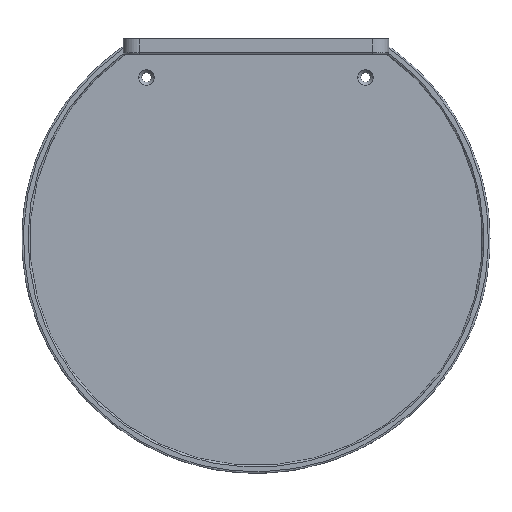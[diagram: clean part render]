
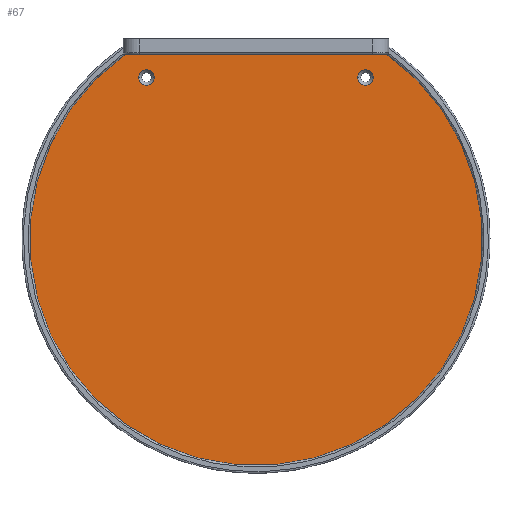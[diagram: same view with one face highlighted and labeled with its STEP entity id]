
A CAD part, top view. The second image highlights one B-rep face of the part: STEP entity #67.
In plain terms, the highlighted planar face has unit normal (0, 0, 1).
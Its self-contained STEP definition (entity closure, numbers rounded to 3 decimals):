
#29=FACE_BOUND('',#166,.T.);
#30=FACE_BOUND('',#167,.T.);
#67=ADVANCED_FACE('',(#112,#29,#30),#776,.T.);
#112=FACE_OUTER_BOUND('',#165,.T.);
#165=EDGE_LOOP('',(#360,#361));
#166=EDGE_LOOP('',(#362,#363));
#167=EDGE_LOOP('',(#364,#365));
#360=ORIENTED_EDGE('',*,*,#485,.T.);
#361=ORIENTED_EDGE('',*,*,#488,.T.);
#362=ORIENTED_EDGE('',*,*,#503,.F.);
#363=ORIENTED_EDGE('',*,*,#493,.F.);
#364=ORIENTED_EDGE('',*,*,#495,.T.);
#365=ORIENTED_EDGE('',*,*,#505,.T.);
#485=EDGE_CURVE('',#719,#718,#560,.T.);
#488=EDGE_CURVE('',#718,#719,#659,.T.);
#493=EDGE_CURVE('',#722,#728,#563,.T.);
#495=EDGE_CURVE('',#724,#730,#564,.T.);
#503=EDGE_CURVE('',#728,#722,#569,.T.);
#505=EDGE_CURVE('',#730,#724,#570,.T.);
#560=TRIMMED_CURVE($,#600,(#1815),(#1816),.T.,.CARTESIAN.);
#563=TRIMMED_CURVE($,#603,(#1836),(#1837),.T.,.CARTESIAN.);
#564=TRIMMED_CURVE($,#604,(#1843),(#1844),.T.,.CARTESIAN.);
#569=TRIMMED_CURVE($,#609,(#1866),(#1867),.T.,.CARTESIAN.);
#570=TRIMMED_CURVE($,#610,(#1873),(#1874),.T.,.CARTESIAN.);
#600=CIRCLE('',#923,151.049);
#603=CIRCLE('',#926,5.);
#604=CIRCLE('',#927,5.);
#609=CIRCLE('',#932,5.);
#610=CIRCLE('',#933,5.);
#659=B_SPLINE_CURVE_WITH_KNOTS('',1,(#1821,#1822),.UNSPECIFIED.,.F.,.F.,
(2,2),(0.,192.873),.UNSPECIFIED.);
#718=VERTEX_POINT('',#1795);
#719=VERTEX_POINT('',#1796);
#722=VERTEX_POINT('',#1799);
#724=VERTEX_POINT('',#1801);
#728=VERTEX_POINT('',#1805);
#730=VERTEX_POINT('',#1807);
#776=PLANE('',#917);
#917=AXIS2_PLACEMENT_3D('',#1708,#1018,$);
#923=AXIS2_PLACEMENT_3D($,#1814,#1025,#1026);
#926=AXIS2_PLACEMENT_3D($,#1835,#1031,#1032);
#927=AXIS2_PLACEMENT_3D($,#1842,#1033,#1034);
#932=AXIS2_PLACEMENT_3D($,#1865,#1043,#1044);
#933=AXIS2_PLACEMENT_3D($,#1872,#1045,#1046);
#1018=DIRECTION('',(0.,0.,1.));
#1025=DIRECTION('',(0.,0.,1.));
#1026=DIRECTION('',(-0.567,0.824,0.));
#1031=DIRECTION('',(0.,0.,1.));
#1032=DIRECTION('',(-1.,0.,0.));
#1033=DIRECTION('',(0.,0.,-1.));
#1034=DIRECTION('',(1.,0.,0.));
#1043=DIRECTION('',(0.,0.,1.));
#1044=DIRECTION('',(1.,0.,0.));
#1045=DIRECTION('',(0.,0.,-1.));
#1046=DIRECTION('',(-1.,0.,0.));
#1708=CARTESIAN_POINT('',(2511.066,-32.349,-145.074));
#1795=CARTESIAN_POINT('',(2407.941,-66.779,-145.074));
#1796=CARTESIAN_POINT('',(2236.569,-66.779,-145.074));
#1799=CARTESIAN_POINT('',(2387.941,-86.779,-145.074));
#1801=CARTESIAN_POINT('',(2256.569,-86.779,-145.074));
#1805=CARTESIAN_POINT('',(2397.941,-86.779,-145.074));
#1807=CARTESIAN_POINT('',(2246.569,-86.779,-145.074));
#1814=CARTESIAN_POINT('',(2322.255,-191.172,-145.074));
#1815=CARTESIAN_POINT('',(2236.569,-66.779,-145.074));
#1816=CARTESIAN_POINT('',(2407.941,-66.779,-145.074));
#1821=CARTESIAN_POINT('',(2407.941,-66.779,-145.074));
#1822=CARTESIAN_POINT('',(2236.569,-66.779,-145.074));
#1835=CARTESIAN_POINT('',(2392.941,-86.779,-145.074));
#1836=CARTESIAN_POINT('',(2387.941,-86.779,-145.074));
#1837=CARTESIAN_POINT('',(2397.941,-86.779,-145.074));
#1842=CARTESIAN_POINT('',(2251.569,-86.779,-145.074));
#1843=CARTESIAN_POINT('',(2256.569,-86.779,-145.074));
#1844=CARTESIAN_POINT('',(2246.569,-86.779,-145.074));
#1865=CARTESIAN_POINT('',(2392.941,-86.779,-145.074));
#1866=CARTESIAN_POINT('',(2397.941,-86.779,-145.074));
#1867=CARTESIAN_POINT('',(2387.941,-86.779,-145.074));
#1872=CARTESIAN_POINT('',(2251.569,-86.779,-145.074));
#1873=CARTESIAN_POINT('',(2246.569,-86.779,-145.074));
#1874=CARTESIAN_POINT('',(2256.569,-86.779,-145.074));
